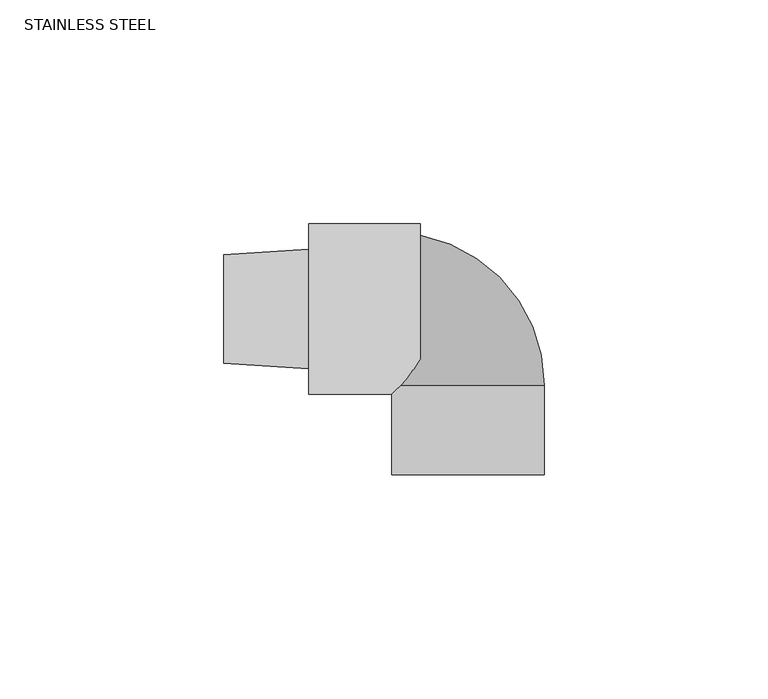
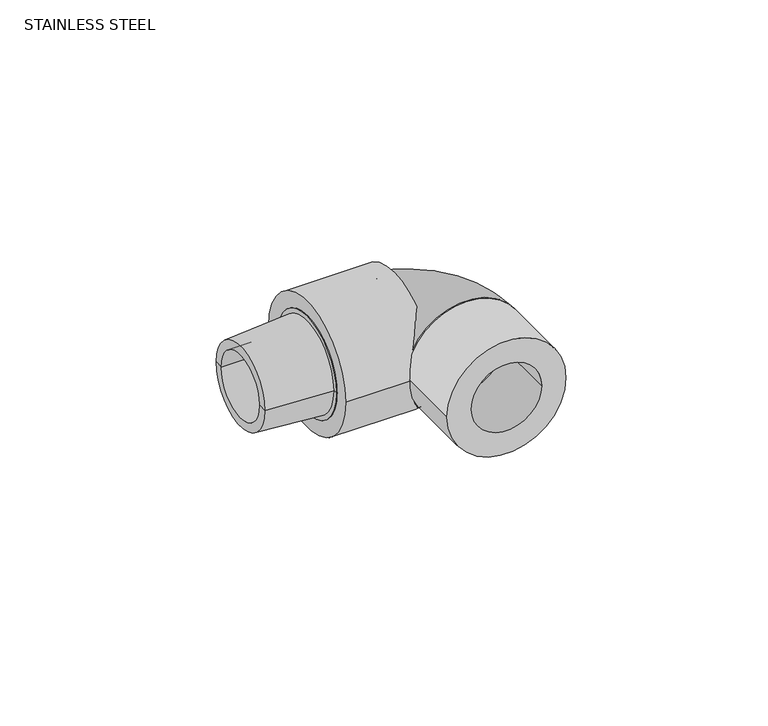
"""IFC4 building model written with IfcOpenShell, lengths in millimetres: valve geometry, Aquatherm - Elbow Transition PPR to M NPT : STAINLESS STEEL."""

from ifc_helpers import new_model, si_unit, point, frame, origin, origin_2d, place, context, project, spatial, polyline, circle_curve, ellipse_curve, trimmed, segment, composite_curve, outline, extrude, source, transform, mapped, element, save
from ifc_brep_helpers import plane_surface, cylinder_surface, revolved_surface, advanced_brep


def stainless_steel_34918486(model_context):
    return source(origin(), model_context, "Body", "SolidModel", [
        advanced_brep(
        [(-16.51, 9.525, 0.0), (-54.61, 9.525, 0.0), (-54.61, -9.525, 0.0), (-16.51, -9.525, 0.0), (-16.51, 14.5851563, 0.0), (-16.51, -14.5851562, 0.0), (-35.56, 14.5851563, 0.0), (-35.56, -14.5851562, 0.0), (-54.61, 12.0943357, 0.0), (-54.61, -12.0943357, 0.0), (-35.56, 13.3100212, 0.0), (-35.56, -13.3100212, 0.0)],
        [
            (0, 1),
            (1, 2, circle_curve(frame((-54.61, 0.0, 0.0), z_axis=(-1.0, 0.0, 0.0), x_axis=(0.0, -1.0, 0.0)), 9.525)),
            (2, 3),
            (3, 0, circle_curve(frame((-16.51, 0.0, 0.0), z_axis=(1.0, 0.0, 0.0), x_axis=(0.0, -1.0, 0.0)), 9.525)),
            (2, 1, circle_curve(frame((-54.61, 0.0, 0.0), z_axis=(-1.0, 0.0, 0.0), x_axis=(0.0, -1.0, 0.0)), 9.525)),
            (0, 3, circle_curve(frame((-16.51, 0.0, 0.0), z_axis=(1.0, 0.0, 0.0), x_axis=(0.0, -1.0, 0.0)), 9.525)),
            (4, 0),
            (3, 5),
            (5, 4, circle_curve(frame((-16.51, 0.0, 0.0), z_axis=(1.0, 0.0, 0.0), x_axis=(0.0, -1.0, 0.0)), 14.5851563)),
            (4, 5, circle_curve(frame((-16.51, 0.0, 0.0), z_axis=(1.0, 0.0, 0.0), x_axis=(0.0, -1.0, 0.0)), 14.5851563)),
            (6, 4),
            (5, 7),
            (7, 6, circle_curve(frame((-35.56, 0.0, 0.0), z_axis=(1.0, 0.0, 0.0), x_axis=(0.0, -1.0, 0.0)), 14.5851563)),
            (6, 7, circle_curve(frame((-35.56, 0.0, 0.0), z_axis=(1.0, 0.0, 0.0), x_axis=(0.0, -1.0, 0.0)), 14.5851563)),
            (1, 8),
            (8, 9, circle_curve(frame((-54.61, 0.0, 0.0), z_axis=(-1.0, 0.0, 0.0), x_axis=(0.0, -1.0, 0.0)), 12.0943357)),
            (9, 2),
            (9, 8, circle_curve(frame((-54.61, 0.0, 0.0), z_axis=(-1.0, 0.0, 0.0), x_axis=(0.0, -1.0, 0.0)), 12.0943357)),
            (10, 6),
            (7, 11),
            (11, 10, circle_curve(frame((-35.56, 0.0, 0.0), z_axis=(1.0, 0.0, 0.0), x_axis=(0.0, -1.0, 0.0)), 13.3100212)),
            (10, 11, circle_curve(frame((-35.56, 0.0, 0.0), z_axis=(1.0, 0.0, 0.0), x_axis=(0.0, -1.0, 0.0)), 13.3100212)),
            (8, 10),
            (11, 9),
        ],
        [
            revolved_surface(polyline([(-54.61, -9.525, 0.0), (-16.509999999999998, -9.525, 0.0)]), (-56.4432251, 0.0, 0.0), (-1.0, 0.0, 0.0)),
            plane_surface(frame((-16.51, 0.0, 0.0), z_axis=(1.0, 0.0, 0.0), x_axis=(0.0, -1.0, 0.0))),
            cylinder_surface(frame((-56.4432251, 0.0, 0.0), z_axis=(-1.0, 0.0, 0.0), x_axis=(0.0, -1.0, 0.0)), 14.5851563),
            plane_surface(frame((-54.61, 0.0, 0.0), z_axis=(-1.0, 0.0, 0.0), x_axis=(0.0, -1.0, 0.0))),
            plane_surface(frame((-35.56, 0.0, 0.0), z_axis=(-1.0, 0.0, 0.0), x_axis=(0.0, -1.0, 0.0))),
            revolved_surface(polyline([(-35.56, -13.3100212, 0.0), (-54.61, -12.0943357, 0.0)]), (-56.4432251, 0.0, 0.0), (-1.0, 0.0, 0.0)),
        ],
        [
            (0, [[1, 2, 3, 4]]),
            (0, [[-3, 5, -1, 6]]),
            (1, [[7, -4, 8, 9]]),
            (1, [[-8, -6, -7, 10]]),
            (2, [[11, -9, 12, 13]]),
            (2, [[-12, -10, -11, 14]]),
            (3, [[15, 16, 17, -2]]),
            (3, [[-17, 18, -15, -5]]),
            (4, [[19, -13, 20, 21]]),
            (4, [[-20, -14, -19, 22]]),
            (5, [[23, -21, 24, -16]]),
            (5, [[-24, -22, -23, -18]]),
        ],
    ),
        advanced_brep(
        [(17.018, -17.018, 0.0), (-17.018, -17.018, 0.0), (6.35, -17.018, 0.0), (-6.35, -17.018, 0.0), (-17.018, 17.018, 0.0), (-17.018, 6.35, 0.0), (-17.018, -6.35, 0.0)],
        [
            (0, 1, circle_curve(frame((0.0, -17.018, 0.0), z_axis=(0.0, -1.0, 0.0), x_axis=(-1.0, 0.0, 0.0)), 17.018)),
            (1, 0, circle_curve(frame((0.0, -17.018, 0.0), z_axis=(0.0, -1.0, 0.0), x_axis=(-1.0, 0.0, 0.0)), 17.018)),
            (2, 3, circle_curve(frame((0.0, -17.018, 0.0), z_axis=(0.0, 1.0, 0.0), x_axis=(-1.0, 0.0, 0.0)), 6.35)),
            (3, 2, circle_curve(frame((0.0, -17.018, 0.0), z_axis=(0.0, 1.0, 0.0), x_axis=(-1.0, 0.0, 0.0)), 6.35)),
            (4, 1, circle_curve(frame((-17.018, 0.0, 0.0), z_axis=(-1.0, 0.0, 0.0), x_axis=(0.0, -1.0, 0.0)), 17.018)),
            (1, 4, circle_curve(frame((-17.018, 0.0, 0.0), z_axis=(-1.0, 0.0, 0.0), x_axis=(0.0, -1.0, 0.0)), 17.018)),
            (5, 6, circle_curve(frame((-17.018, 0.0, 0.0), z_axis=(1.0, 0.0, 0.0), x_axis=(0.0, -1.0, 0.0)), 6.35)),
            (6, 5, circle_curve(frame((-17.018, 0.0, 0.0), z_axis=(1.0, 0.0, 0.0), x_axis=(0.0, -1.0, 0.0)), 6.35)),
            (4, 0, circle_curve(frame((-17.018, -17.018, 0.0), z_axis=(0.0, 0.0, -1.0), x_axis=(1.0, 0.0, 0.0)), 34.036)),
            (5, 2, circle_curve(frame((-17.018, -17.018, 0.0), z_axis=(0.0, 0.0, -1.0), x_axis=(1.0, 0.0, 0.0)), 23.368)),
            (3, 6, circle_curve(frame((-17.018, -17.018, 0.0), z_axis=(0.0, 0.0, 1.0), x_axis=(1.0, 0.0, 0.0)), 10.668)),
        ],
        [
            plane_surface(frame((-17.018, -17.018, 41.9103543), z_axis=(0.0, -1.0, 0.0), x_axis=(1.0, 0.0, 0.0))),
            plane_surface(frame((-17.018, -17.018, 41.9103543), z_axis=(-1.0, 0.0, 0.0), x_axis=(0.0, 1.0, 0.0))),
            revolved_surface(trimmed(ellipse_curve(frame((0.0, -17.018, 0.0), z_axis=(0.0, 1.0, 0.0), x_axis=(-1.0, 0.0, 0.0)), 17.018, 17.018), [point((17.018, -17.018, 0.0))], [point((-17.018, -17.018, 0.0))], True, "CARTESIAN"), (-17.018, -17.018, 41.9103543), (0.0, 0.0, -1.0)),
            revolved_surface(trimmed(ellipse_curve(frame((0.0, -17.018, 0.0), z_axis=(0.0, 1.0, 0.0), x_axis=(-1.0, 0.0, 0.0)), 17.018, 17.018), [point((-17.018, -17.018, 0.0))], [point((17.018, -17.018, 0.0))], True, "CARTESIAN"), (-17.018, -17.018, 41.9103543), (0.0, 0.0, -1.0)),
            revolved_surface(trimmed(ellipse_curve(frame((0.0, -17.018, 0.0), z_axis=(0.0, -1.0, 0.0), x_axis=(-1.0, 0.0, 0.0)), 6.35, 6.35), [point((6.35, -17.018, 0.0))], [point((-6.35, -17.018, 0.0))], True, "CARTESIAN"), (-17.018, -17.018, 41.9103543), (0.0, 0.0, -1.0)),
            revolved_surface(trimmed(ellipse_curve(frame((0.0, -17.018, 0.0), z_axis=(0.0, -1.0, 0.0), x_axis=(-1.0, 0.0, 0.0)), 6.35, 6.35), [point((-6.35, -17.018, 0.0))], [point((6.35, -17.018, 0.0))], True, "CARTESIAN"), (-17.018, -17.018, 41.9103543), (0.0, 0.0, -1.0)),
        ],
        [
            (0, [[1, 2], [3, 4]]),
            (1, [[5, 6], [7, 8]]),
            (2, [[-5, 9, -2]]),
            (3, [[-6, -1, -9]]),
            (4, [[-7, 10, -4, 11]]),
            (5, [[-8, -11, -3, -10]]),
        ],
    ),
        extrude(outline(composite_curve([segment(trimmed(circle_curve(origin_2d(), 17.018), [point((0.0, 17.018))], [point((0.0, -17.018))], False, "CARTESIAN"), True, "CONTINUOUS"), segment(trimmed(circle_curve(origin_2d(), 17.018), [point((0.0, -17.018))], [point((0.0, 17.018))], False, "CARTESIAN"), True, "CONTINUOUS")], self_intersect=False), holes=[composite_curve([segment(trimmed(circle_curve(origin_2d(), 10.033), [point((0.0, 10.033))], [point((0.0, -10.033))], True, "CARTESIAN"), True, "CONTINUOUS"), segment(trimmed(circle_curve(origin_2d(), 10.033), [point((0.0, -10.033))], [point((0.0, 10.033))], True, "CARTESIAN"), True, "CONTINUOUS")], self_intersect=False)]), frame((0.0, -37.084, 0.0), z_axis=(0.0, 1.0, 0.0), x_axis=(0.0, 0.0, 1.0)), (0.0, 0.0, 1.0), 20.066),
        extrude(outline(composite_curve([segment(trimmed(circle_curve(origin_2d(), 19.05), [point((19.05, 0.0))], [point((-19.05, 0.0))], False, "CARTESIAN"), True, "CONTINUOUS"), segment(trimmed(circle_curve(origin_2d(), 19.05), [point((-19.05, 0.0))], [point((19.05, 0.0))], False, "CARTESIAN"), True, "CONTINUOUS")], self_intersect=False), holes=[composite_curve([segment(trimmed(circle_curve(origin_2d(), 14.605), [point((14.605, 0.0))], [point((-14.605, 0.0))], True, "CARTESIAN"), True, "CONTINUOUS"), segment(trimmed(circle_curve(origin_2d(), 14.605), [point((-14.605, 0.0))], [point((14.605, 0.0))], True, "CARTESIAN"), True, "CONTINUOUS")], self_intersect=False)]), frame((-35.56, 0.0, 0.0), z_axis=(1.0, 0.0, 0.0), x_axis=(0.0, 1.0, 0.0)), (0.0, 0.0, 1.0), 24.892),
    ])


if __name__ == "__main__":
    model = new_model("IFC4")
    model_context = context("Model", 3, world=origin())
    ifc_project = project(units=[si_unit("LENGTHUNIT", "METRE", prefix="MILLI")], contexts=[model_context])
    site = spatial("IfcSite", under=ifc_project)
    building = spatial("IfcBuilding", under=site)
    placement = place(None, origin())
    stainless_steel_shape = stainless_steel_34918486(model_context)
    element("IfcValve", 1, ObjectType="Aquatherm - Elbow Transition PPR to M NPT : STAINLESS STEEL", at=placement, inside=building, context=model_context, shape_type="MappedRepresentation", body=[
        mapped(stainless_steel_shape, transform((0.0, 0.0, 0.0), x_axis=(1.0, 0.0, 0.0), y_axis=(0.0, 1.0, 0.0), z_axis=(0.0, 0.0, 1.0))),
    ])
    save(model, "model.ifc")
